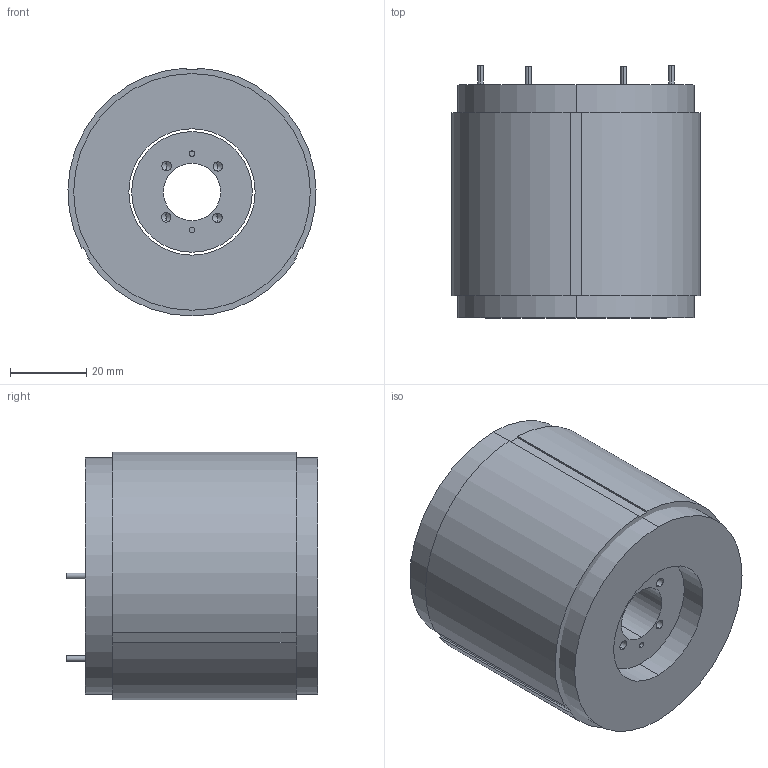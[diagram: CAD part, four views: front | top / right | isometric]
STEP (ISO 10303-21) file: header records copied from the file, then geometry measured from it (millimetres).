
FILE_DESCRIPTION (( 'STEP AP203' ), '1' );
FILE_NAME ('TMX65-60 KIT 3D.STEP', '2021-06-18T06:35:19', ( '' ), ( '' ), 'SwSTEP 2.0', 'SolidWorks 2021', '' );
FILE_SCHEMA (( 'CONFIG_CONTROL_DESIGN' ));
Length unit declared in the file: millimetre
Products named in the file (1): TMX65-60 KIT 3D
Bounding box: 64.98 x 66 x 64.96 mm (x, y, z)
Volume: 189460.5 mm3; surface area: 51988.5 mm2
Topology: 3 solids, 3 shells, 129 faces, 329 edges, 206 vertices
Faces by surface type: cylinder 78, plane 35, cone 16
Entity records: 3924 total; most frequent: DIRECTION 729, CARTESIAN_POINT 649, ORIENTED_EDGE 626, EDGE_CURVE 313, AXIS2_PLACEMENT_3D 286, VERTEX_POINT 206, LINE 157, VECTOR 157
